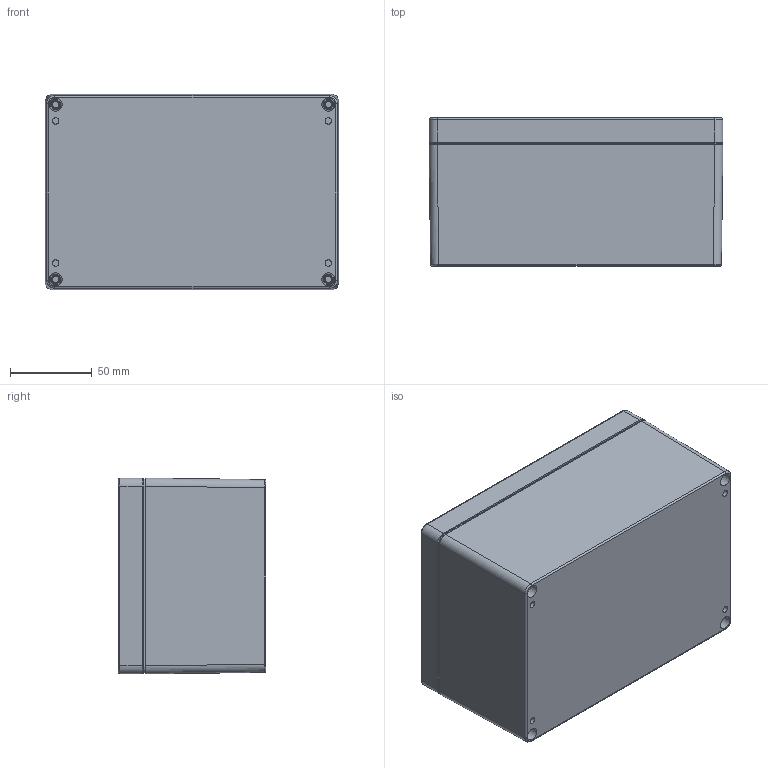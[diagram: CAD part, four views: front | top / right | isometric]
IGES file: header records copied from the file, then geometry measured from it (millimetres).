
Global section: file name: 1554T.iam; native system: Autodesk Inventor 2016; preprocessor: unknown; author: avernon; date: 20160106.073755; units: millimetre
Bounding box: 180 x 90.5 x 120 mm (x, y, z)
Volume: 310414.1 mm3; surface area: 221329.4 mm2
Topology: 15 solids, 15 shells, 1364 faces, 3576 edges, 2320 vertices
Faces by surface type: plane 382, bspline 340, revolution 279, cylinder 259, cone 88, sphere 16
Full cylindrical faces by diameter (mm): 3.43 x4, 3.81 x12, 3.88 x4, 3.912 x4, 5.334 x4, 5.537 x8, 6.35 x8
